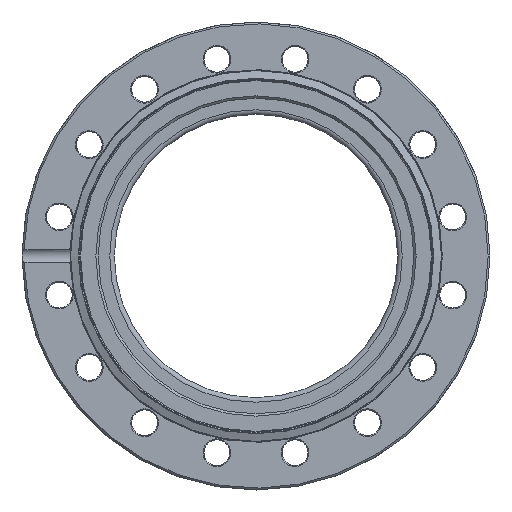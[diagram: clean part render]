
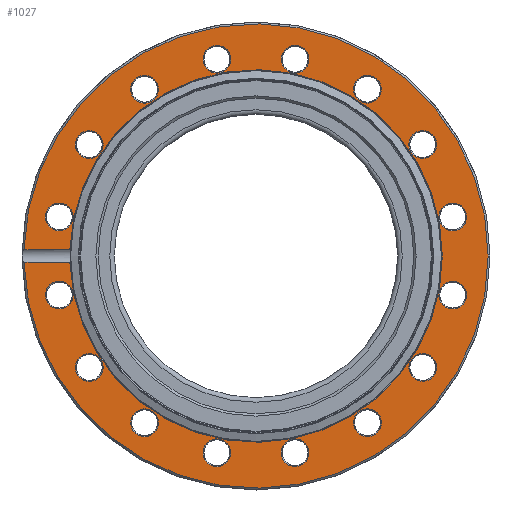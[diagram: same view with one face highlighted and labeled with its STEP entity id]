
A CAD part, left-side view. The second image highlights one B-rep face of the part: STEP entity #1027.
In plain terms, the highlighted planar face has unit normal (-1, 0, 0).
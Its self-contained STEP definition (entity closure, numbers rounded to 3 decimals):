
#409=CARTESIAN_POINT('',(-142.,60.466,2.04));
#410=VERTEX_POINT('',#409);
#431=CARTESIAN_POINT('',(-142.,60.466,-2.04));
#432=VERTEX_POINT('',#431);
#442=CARTESIAN_POINT('',(-142.,0.,0.));
#443=DIRECTION('',(-1.0,0.0,0.0));
#444=DIRECTION('',(0.0,-1.0,0.0));
#445=AXIS2_PLACEMENT_3D('',#442,#443,#444);
#446=CIRCLE('',#445,60.5);
#447=EDGE_CURVE('',#432,#410,#446,.T.);
#736=CARTESIAN_POINT('',(-142.,75.372,2.04));
#737=VERTEX_POINT('',#736);
#747=CARTESIAN_POINT('',(-142.,75.372,-2.04));
#748=VERTEX_POINT('',#747);
#749=CARTESIAN_POINT('',(-142.,0.,0.));
#750=DIRECTION('',(1.0,0.0,0.0));
#751=DIRECTION('',(0.0,-1.0,0.0));
#752=AXIS2_PLACEMENT_3D('',#749,#750,#751);
#753=CIRCLE('',#752,75.4);
#754=EDGE_CURVE('',#737,#748,#753,.T.);
#821=CARTESIAN_POINT('',(-142.,75.372,2.04));
#822=DIRECTION('',(0.0,-1.0,0.0));
#823=VECTOR('',#822,14.907);
#824=LINE('',#821,#823);
#825=EDGE_CURVE('',#737,#410,#824,.T.);
#831=CARTESIAN_POINT('',(-142.,60.466,-2.04));
#832=DIRECTION('',(0.0,1.0,0.0));
#833=VECTOR('',#832,14.907);
#834=LINE('',#831,#833);
#835=EDGE_CURVE('',#432,#748,#834,.T.);
#840=CARTESIAN_POINT('',(-142.,68.15,0.));
#841=DIRECTION('',(-1.0,0.0,0.0));
#842=DIRECTION('',(0.0,0.0,1.0));
#843=AXIS2_PLACEMENT_3D('',#840,#841,#842);
#844=PLANE('',#843);
#845=ORIENTED_EDGE('',*,*,#447,.F.);
#846=ORIENTED_EDGE('',*,*,#835,.T.);
#847=ORIENTED_EDGE('',*,*,#754,.F.);
#848=ORIENTED_EDGE('',*,*,#825,.T.);
#849=EDGE_LOOP('',(#845,#846,#847,#848));
#850=FACE_OUTER_BOUND('',#849,.T.);
#851=CARTESIAN_POINT('',(-142.,-63.898,-17.21));
#852=VERTEX_POINT('',#851);
#853=CARTESIAN_POINT('',(-142.,-63.898,-12.71));
#854=DIRECTION('',(-1.0,0.0,0.0));
#855=DIRECTION('',(0.0,0.0,1.0));
#856=AXIS2_PLACEMENT_3D('',#853,#854,#855);
#857=CIRCLE('',#856,4.5);
#858=EDGE_CURVE('',#852,#852,#857,.T.);
#859=ORIENTED_EDGE('',*,*,#858,.F.);
#860=EDGE_LOOP('',(#859));
#861=FACE_BOUND('',#860,.T.);
#862=CARTESIAN_POINT('',(-142.,-33.013,-57.352));
#863=VERTEX_POINT('',#862);
#864=CARTESIAN_POINT('',(-142.,-36.195,-54.17));
#865=DIRECTION('',(-1.,0.,0.));
#866=DIRECTION('',(0.,-0.707,0.707));
#867=AXIS2_PLACEMENT_3D('',#864,#865,#866);
#868=CIRCLE('',#867,4.5);
#869=EDGE_CURVE('',#863,#863,#868,.T.);
#870=ORIENTED_EDGE('',*,*,#869,.F.);
#871=EDGE_LOOP('',(#870));
#872=FACE_BOUND('',#871,.T.);
#873=CARTESIAN_POINT('',(-142.,17.21,-63.898));
#874=VERTEX_POINT('',#873);
#875=CARTESIAN_POINT('',(-142.,12.71,-63.898));
#876=DIRECTION('',(-1.0,0.0,0.0));
#877=DIRECTION('',(0.0,-1.0,0.0));
#878=AXIS2_PLACEMENT_3D('',#875,#876,#877);
#879=CIRCLE('',#878,4.5);
#880=EDGE_CURVE('',#874,#874,#879,.T.);
#881=ORIENTED_EDGE('',*,*,#880,.F.);
#882=EDGE_LOOP('',(#881));
#883=FACE_BOUND('',#882,.T.);
#884=CARTESIAN_POINT('',(-142.0,57.352,-33.013));
#885=VERTEX_POINT('',#884);
#886=CARTESIAN_POINT('',(-142.0,54.17,-36.195));
#887=DIRECTION('',(-1.,0.,0.));
#888=DIRECTION('',(0.,-0.707,-0.707));
#889=AXIS2_PLACEMENT_3D('',#886,#887,#888);
#890=CIRCLE('',#889,4.5);
#891=EDGE_CURVE('',#885,#885,#890,.T.);
#892=ORIENTED_EDGE('',*,*,#891,.F.);
#893=EDGE_LOOP('',(#892));
#894=FACE_BOUND('',#893,.T.);
#895=CARTESIAN_POINT('',(-142.,65.62,-8.553));
#896=VERTEX_POINT('',#895);
#897=CARTESIAN_POINT('',(-142.,63.898,-12.71));
#898=DIRECTION('',(-1.,0.,0.));
#899=DIRECTION('',(0.,-0.383,-0.924));
#900=AXIS2_PLACEMENT_3D('',#897,#898,#899);
#901=CIRCLE('',#900,4.5);
#902=EDGE_CURVE('',#896,#896,#901,.T.);
#903=ORIENTED_EDGE('',*,*,#902,.F.);
#904=EDGE_LOOP('',(#903));
#905=FACE_BOUND('',#904,.T.);
#906=CARTESIAN_POINT('',(-142.,40.353,-52.448));
#907=VERTEX_POINT('',#906);
#908=CARTESIAN_POINT('',(-142.,36.195,-54.17));
#909=DIRECTION('',(-1.,0.,0.));
#910=DIRECTION('',(0.,-0.924,-0.383));
#911=AXIS2_PLACEMENT_3D('',#908,#909,#910);
#912=CIRCLE('',#911,4.5);
#913=EDGE_CURVE('',#907,#907,#912,.T.);
#914=ORIENTED_EDGE('',*,*,#913,.F.);
#915=EDGE_LOOP('',(#914));
#916=FACE_BOUND('',#915,.T.);
#917=CARTESIAN_POINT('',(-142.,-8.553,-65.62));
#918=VERTEX_POINT('',#917);
#919=CARTESIAN_POINT('',(-142.,-12.71,-63.898));
#920=DIRECTION('',(-1.0,0.,0.));
#921=DIRECTION('',(0.,-0.924,0.383));
#922=AXIS2_PLACEMENT_3D('',#919,#920,#921);
#923=CIRCLE('',#922,4.5);
#924=EDGE_CURVE('',#918,#918,#923,.T.);
#925=ORIENTED_EDGE('',*,*,#924,.F.);
#926=EDGE_LOOP('',(#925));
#927=FACE_BOUND('',#926,.T.);
#928=CARTESIAN_POINT('',(-142.,-52.448,-40.353));
#929=VERTEX_POINT('',#928);
#930=CARTESIAN_POINT('',(-142.,-54.17,-36.195));
#931=DIRECTION('',(-1.0,0.,0.));
#932=DIRECTION('',(0.,-0.383,0.924));
#933=AXIS2_PLACEMENT_3D('',#930,#931,#932);
#934=CIRCLE('',#933,4.5);
#935=EDGE_CURVE('',#929,#929,#934,.T.);
#936=ORIENTED_EDGE('',*,*,#935,.F.);
#937=EDGE_LOOP('',(#936));
#938=FACE_BOUND('',#937,.T.);
#939=CARTESIAN_POINT('',(-142.,52.448,40.353));
#940=VERTEX_POINT('',#939);
#941=CARTESIAN_POINT('',(-142.,54.17,36.195));
#942=DIRECTION('',(-1.0,0.,0.));
#943=DIRECTION('',(0.,0.383,-0.924));
#944=AXIS2_PLACEMENT_3D('',#941,#942,#943);
#945=CIRCLE('',#944,4.5);
#946=EDGE_CURVE('',#940,#940,#945,.T.);
#947=ORIENTED_EDGE('',*,*,#946,.F.);
#948=EDGE_LOOP('',(#947));
#949=FACE_BOUND('',#948,.T.);
#950=CARTESIAN_POINT('',(-142.,8.553,65.62));
#951=VERTEX_POINT('',#950);
#952=CARTESIAN_POINT('',(-142.0,12.71,63.898));
#953=DIRECTION('',(-1.,0.,0.));
#954=DIRECTION('',(0.,0.924,-0.383));
#955=AXIS2_PLACEMENT_3D('',#952,#953,#954);
#956=CIRCLE('',#955,4.5);
#957=EDGE_CURVE('',#951,#951,#956,.T.);
#958=ORIENTED_EDGE('',*,*,#957,.F.);
#959=EDGE_LOOP('',(#958));
#960=FACE_BOUND('',#959,.T.);
#961=CARTESIAN_POINT('',(-142.,-40.353,52.448));
#962=VERTEX_POINT('',#961);
#963=CARTESIAN_POINT('',(-142.,-36.195,54.17));
#964=DIRECTION('',(-1.0,0.,0.));
#965=DIRECTION('',(0.,0.924,0.383));
#966=AXIS2_PLACEMENT_3D('',#963,#964,#965);
#967=CIRCLE('',#966,4.5);
#968=EDGE_CURVE('',#962,#962,#967,.T.);
#969=ORIENTED_EDGE('',*,*,#968,.F.);
#970=EDGE_LOOP('',(#969));
#971=FACE_BOUND('',#970,.T.);
#972=CARTESIAN_POINT('',(-142.,-65.62,8.553));
#973=VERTEX_POINT('',#972);
#974=CARTESIAN_POINT('',(-142.,-63.898,12.71));
#975=DIRECTION('',(-1.,0.,0.));
#976=DIRECTION('',(0.,0.383,0.924));
#977=AXIS2_PLACEMENT_3D('',#974,#975,#976);
#978=CIRCLE('',#977,4.5);
#979=EDGE_CURVE('',#973,#973,#978,.T.);
#980=ORIENTED_EDGE('',*,*,#979,.F.);
#981=EDGE_LOOP('',(#980));
#982=FACE_BOUND('',#981,.T.);
#983=CARTESIAN_POINT('',(-142.,63.898,17.21));
#984=VERTEX_POINT('',#983);
#985=CARTESIAN_POINT('',(-142.,63.898,12.71));
#986=DIRECTION('',(-1.0,0.0,0.0));
#987=DIRECTION('',(0.0,0.0,-1.0));
#988=AXIS2_PLACEMENT_3D('',#985,#986,#987);
#989=CIRCLE('',#988,4.5);
#990=EDGE_CURVE('',#984,#984,#989,.T.);
#991=ORIENTED_EDGE('',*,*,#990,.F.);
#992=EDGE_LOOP('',(#991));
#993=FACE_BOUND('',#992,.T.);
#994=CARTESIAN_POINT('',(-142.,-57.352,33.013));
#995=VERTEX_POINT('',#994);
#996=CARTESIAN_POINT('',(-142.,-54.17,36.195));
#997=DIRECTION('',(-1.,0.,0.));
#998=DIRECTION('',(0.,0.707,0.707));
#999=AXIS2_PLACEMENT_3D('',#996,#997,#998);
#1000=CIRCLE('',#999,4.5);
#1001=EDGE_CURVE('',#995,#995,#1000,.T.);
#1002=ORIENTED_EDGE('',*,*,#1001,.F.);
#1003=EDGE_LOOP('',(#1002));
#1004=FACE_BOUND('',#1003,.T.);
#1005=CARTESIAN_POINT('',(-142.,-17.21,63.898));
#1006=VERTEX_POINT('',#1005);
#1007=CARTESIAN_POINT('',(-142.,-12.71,63.898));
#1008=DIRECTION('',(-1.0,0.0,0.0));
#1009=DIRECTION('',(0.0,1.0,0.0));
#1010=AXIS2_PLACEMENT_3D('',#1007,#1008,#1009);
#1011=CIRCLE('',#1010,4.5);
#1012=EDGE_CURVE('',#1006,#1006,#1011,.T.);
#1013=ORIENTED_EDGE('',*,*,#1012,.F.);
#1014=EDGE_LOOP('',(#1013));
#1015=FACE_BOUND('',#1014,.T.);
#1016=CARTESIAN_POINT('',(-142.0,33.013,57.352));
#1017=VERTEX_POINT('',#1016);
#1018=CARTESIAN_POINT('',(-142.,36.195,54.17));
#1019=DIRECTION('',(-1.,0.,0.));
#1020=DIRECTION('',(0.,0.707,-0.707));
#1021=AXIS2_PLACEMENT_3D('',#1018,#1019,#1020);
#1022=CIRCLE('',#1021,4.5);
#1023=EDGE_CURVE('',#1017,#1017,#1022,.T.);
#1024=ORIENTED_EDGE('',*,*,#1023,.F.);
#1025=EDGE_LOOP('',(#1024));
#1026=FACE_BOUND('',#1025,.T.);
#1027=ADVANCED_FACE('',(#850,#861,#872,#883,#894,#905,#916,#927,#938,#949,#960,#971,#982,#993,#1004,#1015,#1026),#844,.T.);
